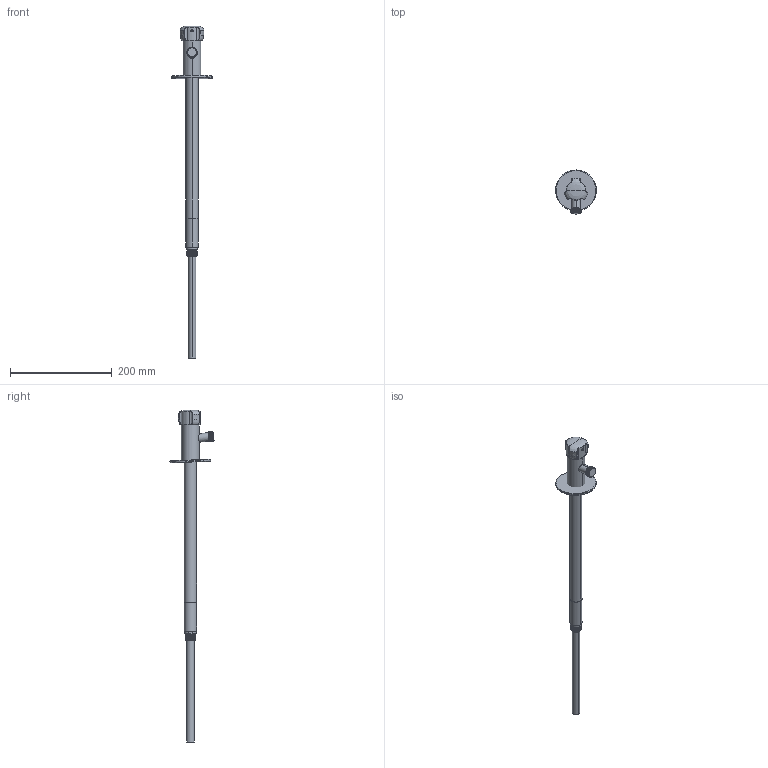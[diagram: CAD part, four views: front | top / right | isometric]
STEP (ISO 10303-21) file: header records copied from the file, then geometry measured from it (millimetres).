
FILE_DESCRIPTION((''),'2;1');
FILE_NAME('89985--25_SW0001','2026-09-09T14:34:40',('clra1'),(''),'CREO PARAMETRIC BY PTC INC, 2022244','CREO PARAMETRIC BY PTC INC, 2022244','');
FILE_SCHEMA(('CONFIG_CONTROL_DESIGN'));
Length unit declared in the file: millimetre
Products named in the file (1): 89985--25_SW0001
Bounding box: 80 x 86.46 x 651.1 mm (x, y, z)
Surface area: 64358.1 mm2 (no closed solid volume)
Topology: 0 solids, 16 shells, 144 faces, 358 edges, 225 vertices
Faces by surface type: bspline 46, cylinder 44, cone 28, plane 12, torus 9, revolution 5
Entity records: 10840 total; most frequent: CARTESIAN_POINT 7817, ORIENTED_EDGE 663, DIRECTION 519, EDGE_CURVE 356, VERTEX_POINT 225, AXIS2_PLACEMENT_3D 219, B_SPLINE_CURVE_WITH_KNOTS 159, EDGE_LOOP 144
